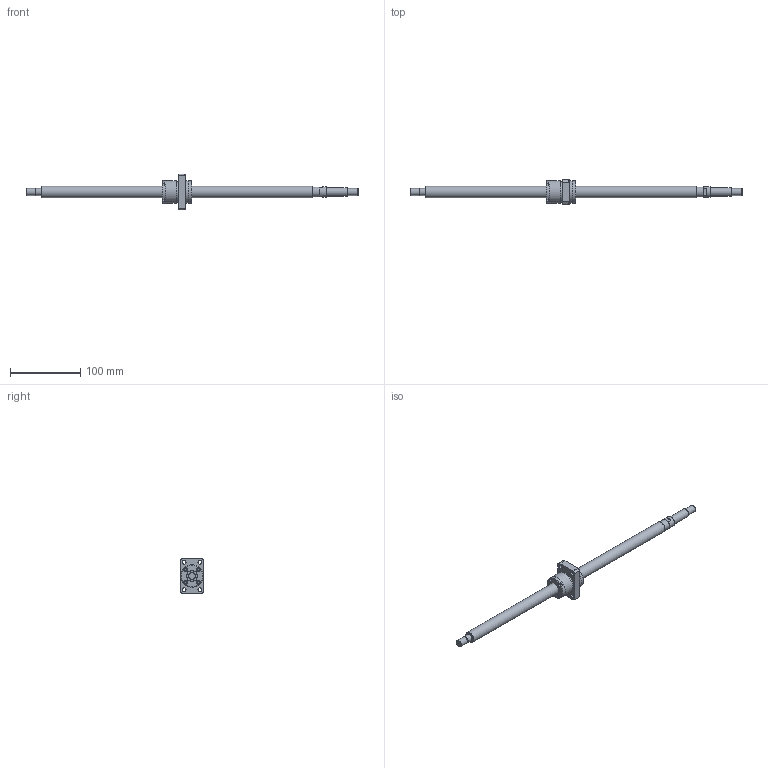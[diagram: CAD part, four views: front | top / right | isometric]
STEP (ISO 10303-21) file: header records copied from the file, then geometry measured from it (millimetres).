
FILE_DESCRIPTION(/* description */ ('STEP AP203'),/* implementation_level */ '2;1');
FILE_NAME(/* name */ 'BNK1616-3.6G0+471LC5Y(2130)',/* time_stamp */ '2024-07-09T09:29:20+02:00',/* author */ ('License CC BY-ND 4.0'),/* organization */ ('CADENAS'),/* preprocessor_version */ 'ST-DEVELOPER v19.3',/* originating_system */ 'PARTsolutions',/* authorisation */ ' ');
FILE_SCHEMA (('CONFIG_CONTROL_DESIGN'));
Length unit declared in the file: millimetre
Products named in the file (3): BNK1616-3.6G0+471LC5Y(2130); BNK 1616-3.6G0+471LC5Y Shaft; BNK 1616-3.6G0+471LC5Y0 Nut
Assembly tree (2 placements, depth 2):
  BNK1616-3.6G0+471LC5Y(2130)
    BNK 1616-3.6G0+471LC5Y Shaft
    BNK 1616-3.6G0+471LC5Y0 Nut
Bounding box: 471 x 34 x 50 mm (x, y, z)
Volume: 118025.6 mm3; surface area: 34290.7 mm2
Topology: 2 solids, 2 shells, 136 faces, 312 edges, 202 vertices
Faces by surface type: plane 75, cylinder 35, cone 20, torus 6
Full cylindrical faces by diameter (mm): 5.188 x1, 5.5 x8, 9.5 x4, 9.6 x1, 10 x3, 12 x1, 14 x1, 15 x1, 16 x2, 28.8 x1, 31.8 x2, 32 x2
Entity records: 3705 total; most frequent: CARTESIAN_POINT 676, DIRECTION 626, ORIENTED_EDGE 530, EDGE_CURVE 265, AXIS2_PLACEMENT_3D 247, FACE_BOUND 210, EDGE_LOOP 209, VERTEX_POINT 197
